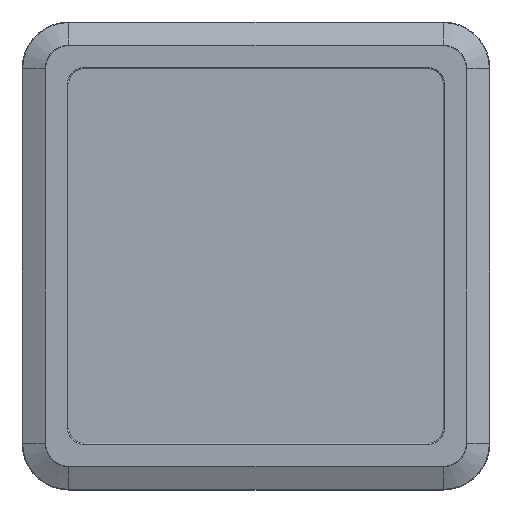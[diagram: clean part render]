
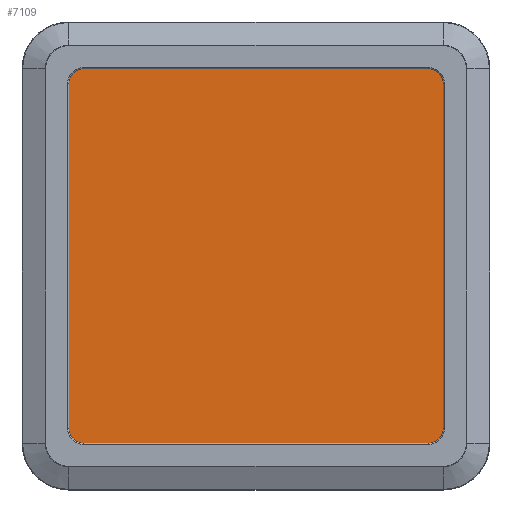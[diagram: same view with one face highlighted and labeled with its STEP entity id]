
A CAD part, top view. The second image highlights one B-rep face of the part: STEP entity #7109.
In plain terms, the highlighted planar face has unit normal (0, 0, 1).
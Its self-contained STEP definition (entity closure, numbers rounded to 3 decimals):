
#191=PLANE('',#7667);
#307=LINE('',#10704,#826);
#311=LINE('',#10713,#830);
#708=LINE('',#14950,#1227);
#709=LINE('',#14954,#1228);
#826=VECTOR('',#8097,10.);
#830=VECTOR('',#8107,10.);
#1227=VECTOR('',#9262,10.);
#1228=VECTOR('',#9269,10.);
#1779=FACE_OUTER_BOUND('',#2218,.T.);
#2218=EDGE_LOOP('',(#6558,#6559,#6560,#6561,#6562,#6563,#6564,#6565));
#2599=CIRCLE('',#7283,1.25);
#2600=CIRCLE('',#7286,1.25);
#2753=CIRCLE('',#7662,1.25);
#2754=CIRCLE('',#7665,1.25);
#3003=VERTEX_POINT('',#10701);
#3004=VERTEX_POINT('',#10703);
#3005=VERTEX_POINT('',#10707);
#3006=VERTEX_POINT('',#10711);
#3007=VERTEX_POINT('',#10715);
#3419=VERTEX_POINT('',#14942);
#3420=VERTEX_POINT('',#14944);
#3421=VERTEX_POINT('',#14948);
#3735=EDGE_CURVE('',#3003,#3004,#307,.T.);
#3738=EDGE_CURVE('',#3005,#3003,#2599,.T.);
#3740=EDGE_CURVE('',#3006,#3005,#311,.T.);
#3742=EDGE_CURVE('',#3007,#3006,#2600,.T.);
#4466=EDGE_CURVE('',#3419,#3420,#2753,.T.);
#4469=EDGE_CURVE('',#3421,#3419,#708,.T.);
#4470=EDGE_CURVE('',#3004,#3421,#2754,.T.);
#4471=EDGE_CURVE('',#3420,#3007,#709,.T.);
#6558=ORIENTED_EDGE('',*,*,#3735,.F.);
#6559=ORIENTED_EDGE('',*,*,#3738,.F.);
#6560=ORIENTED_EDGE('',*,*,#3740,.F.);
#6561=ORIENTED_EDGE('',*,*,#3742,.F.);
#6562=ORIENTED_EDGE('',*,*,#4471,.F.);
#6563=ORIENTED_EDGE('',*,*,#4466,.F.);
#6564=ORIENTED_EDGE('',*,*,#4469,.F.);
#6565=ORIENTED_EDGE('',*,*,#4470,.F.);
#7109=ADVANCED_FACE('',(#1779),#191,.T.);
#7283=AXIS2_PLACEMENT_3D('',#10709,#8102,#8103);
#7286=AXIS2_PLACEMENT_3D('',#10717,#8111,#8112);
#7662=AXIS2_PLACEMENT_3D('',#14945,#9256,#9257);
#7665=AXIS2_PLACEMENT_3D('',#14952,#9265,#9266);
#7667=AXIS2_PLACEMENT_3D('',#14955,#9270,#9271);
#8097=DIRECTION('',(-1.,0.,0.));
#8102=DIRECTION('center_axis',(0.,0.,-1.));
#8103=DIRECTION('ref_axis',(0.,-1.,0.));
#8107=DIRECTION('',(0.,-1.,0.));
#8111=DIRECTION('center_axis',(0.,0.,-1.));
#8112=DIRECTION('ref_axis',(1.,0.,0.));
#9256=DIRECTION('center_axis',(0.,0.,-1.));
#9257=DIRECTION('ref_axis',(0.,1.,0.));
#9262=DIRECTION('',(0.,1.,0.));
#9265=DIRECTION('center_axis',(0.,0.,-1.));
#9266=DIRECTION('ref_axis',(-1.,0.,0.));
#9269=DIRECTION('',(1.,0.,0.));
#9270=DIRECTION('center_axis',(0.,0.,1.));
#9271=DIRECTION('ref_axis',(1.,0.,0.));
#10701=CARTESIAN_POINT('',(14.75,-16.,2.));
#10703=CARTESIAN_POINT('',(-14.75,-16.,2.));
#10704=CARTESIAN_POINT('',(7.375,-16.,2.));
#10707=CARTESIAN_POINT('',(16.,-14.75,2.));
#10709=CARTESIAN_POINT('Origin',(14.75,-14.75,2.));
#10711=CARTESIAN_POINT('',(16.,14.75,2.));
#10713=CARTESIAN_POINT('',(16.,7.375,2.));
#10715=CARTESIAN_POINT('',(14.75,16.,2.));
#10717=CARTESIAN_POINT('Origin',(14.75,14.75,2.));
#14942=CARTESIAN_POINT('',(-16.,14.75,2.));
#14944=CARTESIAN_POINT('',(-14.75,16.,2.));
#14945=CARTESIAN_POINT('Origin',(-14.75,14.75,2.));
#14948=CARTESIAN_POINT('',(-16.,-14.75,2.));
#14950=CARTESIAN_POINT('',(-16.,-7.375,2.));
#14952=CARTESIAN_POINT('Origin',(-14.75,-14.75,2.));
#14954=CARTESIAN_POINT('',(-7.375,16.,2.));
#14955=CARTESIAN_POINT('Origin',(0.,0.,2.));
